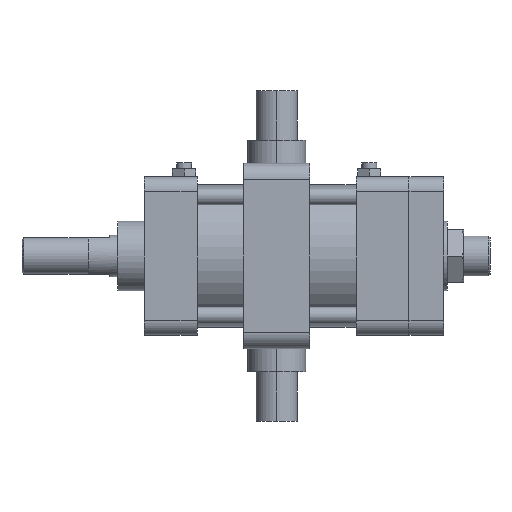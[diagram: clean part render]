
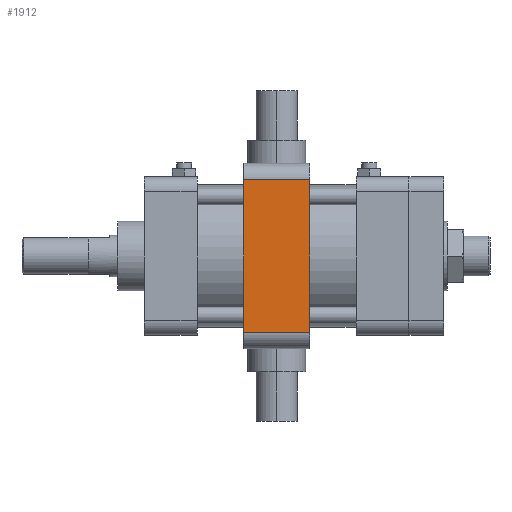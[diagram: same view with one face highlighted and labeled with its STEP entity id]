
A CAD part, front view. The second image highlights one B-rep face of the part: STEP entity #1912.
In plain terms, the highlighted planar face has unit normal (0, -1, 0) as drawn and (0, 0, 1) by its records, which use the part's own axes.
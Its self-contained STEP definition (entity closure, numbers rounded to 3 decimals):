
#65 = ORIENTED_EDGE ( 'NONE', *, *, #3225, .T. ) ;
#221 = LINE ( 'NONE', #6653, #9650 ) ;
#1035 = ORIENTED_EDGE ( 'NONE', *, *, #3145, .F. ) ;
#1097 = ORIENTED_EDGE ( 'NONE', *, *, #8290, .T. ) ;
#1132 = CARTESIAN_POINT ( 'NONE',  ( -46., -40., 56. ) ) ;
#1492 = CARTESIAN_POINT ( 'NONE',  ( 46., -40., 56. ) ) ;
#1636 = VERTEX_POINT ( 'NONE', #3536 ) ;
#1912 = ADVANCED_FACE ( 'NONE', ( #6598 ), #2913, .T. ) ;
#2913 = PLANE ( 'NONE',  #7612 ) ;
#3108 = DIRECTION ( 'NONE',  ( 0., 1., 0. ) ) ;
#3145 = EDGE_CURVE ( 'NONE', #3462, #9714, #7625, .T. ) ;
#3225 = EDGE_CURVE ( 'NONE', #3462, #1636, #221, .T. ) ;
#3462 = VERTEX_POINT ( 'NONE', #6160 ) ;
#3536 = CARTESIAN_POINT ( 'NONE',  ( -46., -40., 56. ) ) ;
#3814 = DIRECTION ( 'NONE',  ( 1., 0., 0. ) ) ;
#4135 = VECTOR ( 'NONE', #3108, 1000. ) ;
#4218 = EDGE_LOOP ( 'NONE', ( #1035, #65, #1097, #5409 ) ) ;
#4405 = CARTESIAN_POINT ( 'NONE',  ( 46., -20., 56. ) ) ;
#4459 = LINE ( 'NONE', #7191, #6587 ) ;
#4829 = DIRECTION ( 'NONE',  ( 1., 0., 0. ) ) ;
#5409 = ORIENTED_EDGE ( 'NONE', *, *, #8460, .T. ) ;
#5878 = DIRECTION ( 'NONE',  ( 0., -1., 0. ) ) ;
#6160 = CARTESIAN_POINT ( 'NONE',  ( -46., 0., 56. ) ) ;
#6587 = VECTOR ( 'NONE', #3814, 1000. ) ;
#6598 = FACE_OUTER_BOUND ( 'NONE', #4218, .T. ) ;
#6653 = CARTESIAN_POINT ( 'NONE',  ( -46., -20., 56. ) ) ;
#7191 = CARTESIAN_POINT ( 'NONE',  ( 0., -40., 56. ) ) ;
#7612 = AXIS2_PLACEMENT_3D ( 'NONE', #1132, #7727, #4829 ) ;
#7625 = LINE ( 'NONE', #8442, #8832 ) ;
#7727 = DIRECTION ( 'NONE',  ( 0., 0., 1. ) ) ;
#8290 = EDGE_CURVE ( 'NONE', #1636, #8554, #4459, .T. ) ;
#8442 = CARTESIAN_POINT ( 'NONE',  ( 0., 0., 56. ) ) ;
#8460 = EDGE_CURVE ( 'NONE', #8554, #9714, #9083, .T. ) ;
#8554 = VERTEX_POINT ( 'NONE', #1492 ) ;
#8832 = VECTOR ( 'NONE', #9421, 1000. ) ;
#9083 = LINE ( 'NONE', #4405, #4135 ) ;
#9171 = CARTESIAN_POINT ( 'NONE',  ( 46., 0., 56. ) ) ;
#9421 = DIRECTION ( 'NONE',  ( 1., 0., 0. ) ) ;
#9650 = VECTOR ( 'NONE', #5878, 1000. ) ;
#9714 = VERTEX_POINT ( 'NONE', #9171 ) ;
